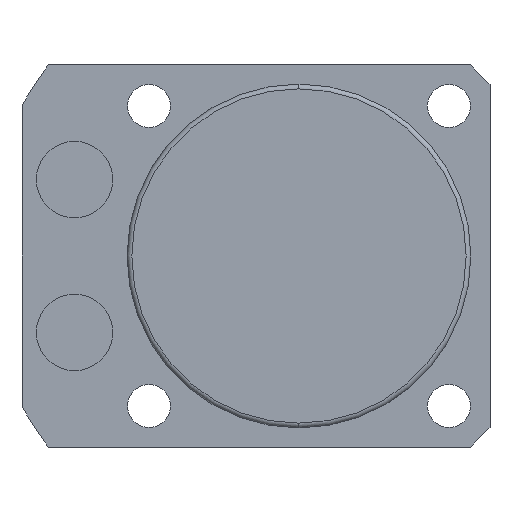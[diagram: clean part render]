
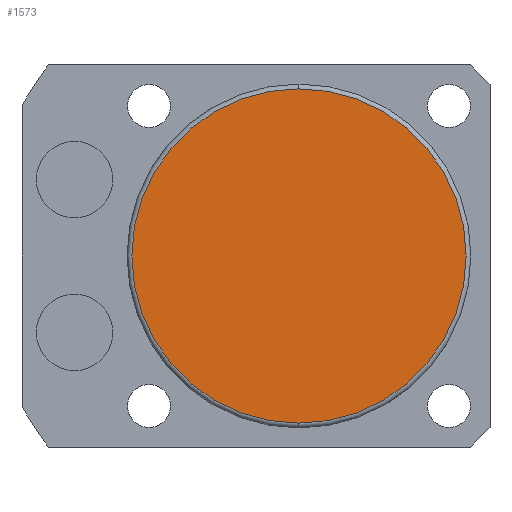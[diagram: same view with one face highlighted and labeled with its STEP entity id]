
A CAD part, front view. The second image highlights one B-rep face of the part: STEP entity #1573.
In plain terms, the highlighted planar face has unit normal (0, -1, 0).
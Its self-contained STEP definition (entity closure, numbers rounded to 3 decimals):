
#72 = DIRECTION ( 'NONE',  ( 0., -1., 0. ) ) ;
#125 = CARTESIAN_POINT ( 'NONE',  ( 0., -135.5, -17.5 ) ) ;
#293 = AXIS2_PLACEMENT_3D ( 'NONE', #1417, #72, #298 ) ;
#298 = DIRECTION ( 'NONE',  ( 0., 0., -1. ) ) ;
#737 = VERTEX_POINT ( 'NONE', #125 ) ;
#916 = EDGE_LOOP ( 'NONE', ( #1204, #1633 ) ) ;
#1046 = DIRECTION ( 'NONE',  ( 0., 0., -1. ) ) ;
#1072 = CARTESIAN_POINT ( 'NONE',  ( 0., -135.5, 0. ) ) ;
#1204 = ORIENTED_EDGE ( 'NONE', *, *, #2093, .T. ) ;
#1245 = DIRECTION ( 'NONE',  ( 0., 0., -1. ) ) ;
#1258 = CIRCLE ( 'NONE', #293, 17.5 ) ;
#1316 = CIRCLE ( 'NONE', #1451, 17.5 ) ;
#1417 = CARTESIAN_POINT ( 'NONE',  ( 0., -135.5, 0. ) ) ;
#1451 = AXIS2_PLACEMENT_3D ( 'NONE', #1072, #1634, #1245 ) ;
#1517 = VERTEX_POINT ( 'NONE', #1829 ) ;
#1573 = ADVANCED_FACE ( 'NONE', ( #1676 ), #2184, .T. ) ;
#1633 = ORIENTED_EDGE ( 'NONE', *, *, #2058, .T. ) ;
#1634 = DIRECTION ( 'NONE',  ( 0., -1., 0. ) ) ;
#1645 = DIRECTION ( 'NONE',  ( 0., -1., 0. ) ) ;
#1676 = FACE_OUTER_BOUND ( 'NONE', #916, .T. ) ;
#1829 = CARTESIAN_POINT ( 'NONE',  ( 0., -135.5, 17.5 ) ) ;
#2038 = CARTESIAN_POINT ( 'NONE',  ( 0., -135.5, 0. ) ) ;
#2058 = EDGE_CURVE ( 'NONE', #1517, #737, #1258, .T. ) ;
#2093 = EDGE_CURVE ( 'NONE', #737, #1517, #1316, .T. ) ;
#2184 = PLANE ( 'NONE',  #2294 ) ;
#2294 = AXIS2_PLACEMENT_3D ( 'NONE', #2038, #1645, #1046 ) ;
